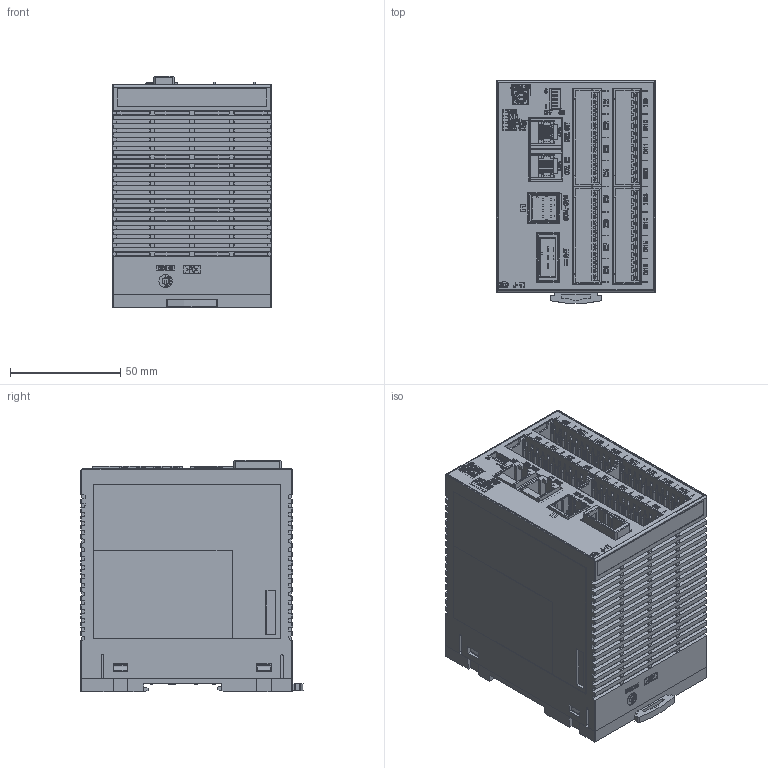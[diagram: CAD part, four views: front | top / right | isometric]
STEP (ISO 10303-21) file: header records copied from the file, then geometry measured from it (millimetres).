
FILE_DESCRIPTION (( 'STEP AP203' ), '1' );
FILE_NAME ('SRJ(J-TI-A)_WEB_1512.STEP', '2017-04-06T06:13:52', ( 'a' ), ( 'Microsoft' ), 'SwSTEP 2.0', 'SolidWorks 2016', '' );
FILE_SCHEMA (( 'CONFIG_CONTROL_DESIGN' ));
Length unit declared in the file: millimetre
Products named in the file (3): SRJ(J-TI-A基本設計)_WEB; KSRZ-54(1)_WEB_デフォルト; SRJ(J-TI-A)_WEB_1512
Assembly tree (2 placements, depth 2):
  SRJ(J-TI-A)_WEB_1512
    SRJ(J-TI-A基本設計)_WEB
    KSRZ-54(1)_WEB_デフォルト
Bounding box: 72 x 100.86 x 104.8 mm (x, y, z)
Volume: 740414.1 mm3; surface area: 111538.7 mm2
Topology: 3 solids, 8 shells, 8386 faces, 23669 edges, 15632 vertices
Faces by surface type: plane 6286, bspline 1015, cylinder 890, cone 113, torus 78, sphere 4
Entity records: 303852 total; most frequent: CARTESIAN_POINT 92213, ORIENTED_EDGE 47314, DIRECTION 37896, EDGE_CURVE 23657, LINE 19600, VECTOR 19600, VERTEX_POINT 15624, AXIS2_PLACEMENT_3D 9148
